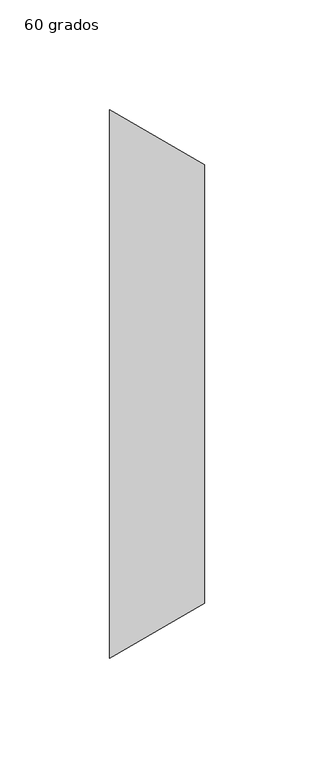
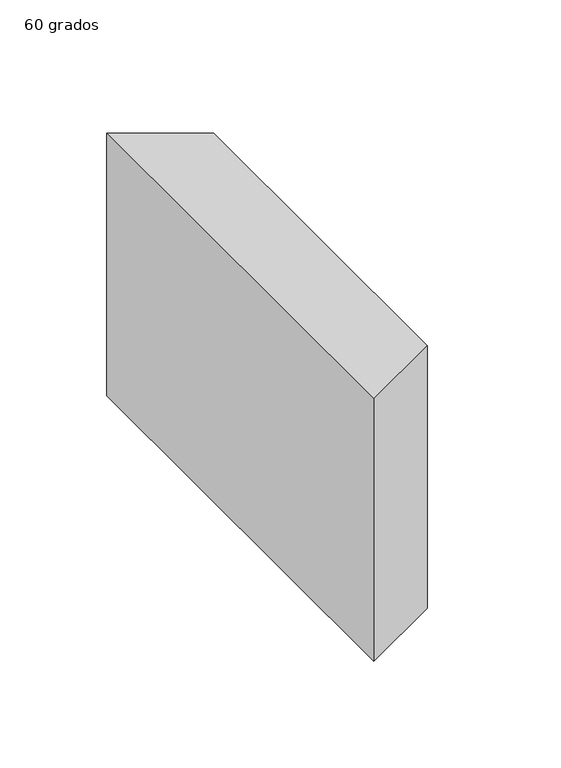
"""IFC4 building model written with IfcOpenShell, lengths in millimetres: duct fitting geometry, M_Transición rectangular - Ángulo : 60 grados."""

from ifc_helpers import new_model, si_unit, frame, origin, place, context, project, spatial, polyline, outline, extrude, source, transform, mapped, element, save


def duct_fitting_60_grados_72404a1b(model_context):
    return source(origin(), model_context, "Body", "SweptSolid", [
        extrude(outline(polyline([(0.0, -125.0), (0.0, 125.0), (43.3012702, 100.0), (43.3012702, -100.0), (0.0, -125.0)])), frame((0.0, 0.0, -75.0), z_axis=(0.0, 0.0, 1.0), x_axis=(1.0, 0.0, 0.0)), (0.0, 0.0, 1.0), 150.0),
    ])


if __name__ == "__main__":
    model = new_model("IFC4")
    model_context = context("Model", 3, world=origin())
    ifc_project = project(units=[si_unit("LENGTHUNIT", "METRE", prefix="MILLI")], contexts=[model_context])
    site = spatial("IfcSite", under=ifc_project)
    building = spatial("IfcBuilding", under=site)
    placement = place(None, origin())
    duct_fitting_60_grados_shape = duct_fitting_60_grados_72404a1b(model_context)
    element("IfcDuctFitting", 1, ObjectType="M_Transición rectangular - Ángulo : 60 grados", at=placement, inside=building, context=model_context, shape_type="MappedRepresentation", body=[
        mapped(duct_fitting_60_grados_shape, transform((0.0, 0.0, 0.0), x_axis=(1.0, 0.0, 0.0), y_axis=(0.0, 1.0, 0.0), z_axis=(0.0, 0.0, 1.0))),
    ])
    save(model, "model.ifc")
